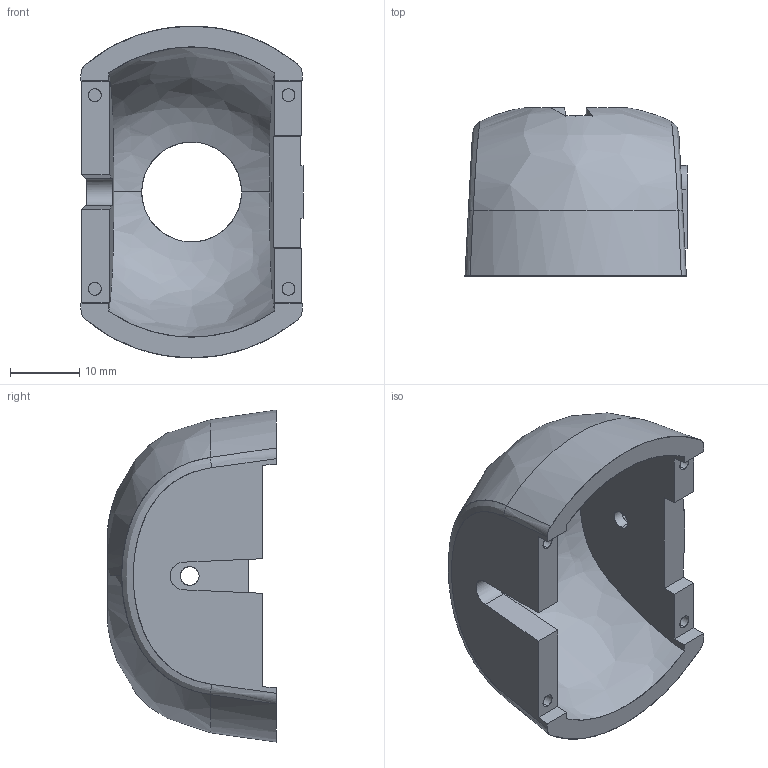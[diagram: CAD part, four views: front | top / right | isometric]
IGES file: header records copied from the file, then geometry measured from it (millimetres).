
Start section: SolidWorks IGES file using analytic representation for surfaces
Global section: file name: C:\Users\Agamemnon\Documents\ASSEM-CAM\CAMTILT-CAMERA-COVER\CAMTILT-P-LOW-LIGHT-HD-USB-R7.IGS; native system: SolidWorks 2016; preprocessor: SolidWorks 2016; author: Agamemnon; date: 180621.115353; units: millimetre
Bounding box: 32.1 x 24.36 x 48 mm (x, y, z)
Surface area: 6669.6 mm2 (no closed solid volume)
Topology: 0 solids, 0 shells, 94 faces, 1285 edges, 1285 vertices
Faces by surface type: bspline 73, revolution 21
